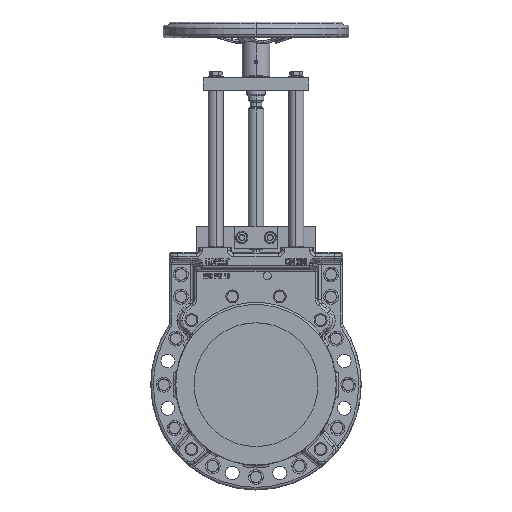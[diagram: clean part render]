
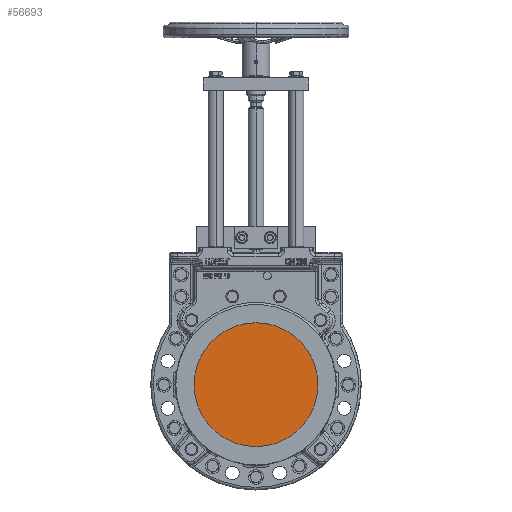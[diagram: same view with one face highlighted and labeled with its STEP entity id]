
A CAD part, top view. The second image highlights one B-rep face of the part: STEP entity #56693.
In plain terms, the highlighted planar face has unit normal (0, 0, 1).
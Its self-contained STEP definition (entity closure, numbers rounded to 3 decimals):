
#1441 = DIRECTION ( 'NONE',  ( 0., 0., 1. ) ) ;
#7302 = ORIENTED_EDGE ( 'NONE', *, *, #109169, .T. ) ;
#10169 = AXIS2_PLACEMENT_3D ( 'NONE', #57676, #105596, #48945 ) ;
#14068 = DIRECTION ( 'NONE',  ( 0., 0., 1. ) ) ;
#15563 = AXIS2_PLACEMENT_3D ( 'NONE', #70873, #14068, #80335 ) ;
#17742 = AXIS2_PLACEMENT_3D ( 'NONE', #58121, #1441, #67612 ) ;
#19157 = ORIENTED_EDGE ( 'NONE', *, *, #122781, .T. ) ;
#26068 = VERTEX_POINT ( 'NONE', #40660 ) ;
#37494 = CIRCLE ( 'NONE', #17742, 100. ) ;
#40660 = CARTESIAN_POINT ( 'NONE',  ( 100., 0., -0.25 ) ) ;
#48945 = DIRECTION ( 'NONE',  ( 1., 0., 0. ) ) ;
#56693 = ADVANCED_FACE ( 'NONE', ( #59572 ), #114745, .T. ) ;
#57676 = CARTESIAN_POINT ( 'NONE',  ( 0., 0., -0.25 ) ) ;
#58121 = CARTESIAN_POINT ( 'NONE',  ( 0., 0., -0.25 ) ) ;
#59572 = FACE_OUTER_BOUND ( 'NONE', #79140, .T. ) ;
#67591 = CIRCLE ( 'NONE', #15563, 100. ) ;
#67612 = DIRECTION ( 'NONE',  ( 1., 0., 0. ) ) ;
#68091 = CARTESIAN_POINT ( 'NONE',  ( -100., 0., -0.25 ) ) ;
#70873 = CARTESIAN_POINT ( 'NONE',  ( 0., 0., -0.25 ) ) ;
#79140 = EDGE_LOOP ( 'NONE', ( #7302, #19157 ) ) ;
#80335 = DIRECTION ( 'NONE',  ( 1., 0., 0. ) ) ;
#98537 = VERTEX_POINT ( 'NONE', #68091 ) ;
#105596 = DIRECTION ( 'NONE',  ( 0., 0., 1. ) ) ;
#109169 = EDGE_CURVE ( 'NONE', #26068, #98537, #67591, .T. ) ;
#114745 = PLANE ( 'NONE',  #10169 ) ;
#122781 = EDGE_CURVE ( 'NONE', #98537, #26068, #37494, .T. ) ;
